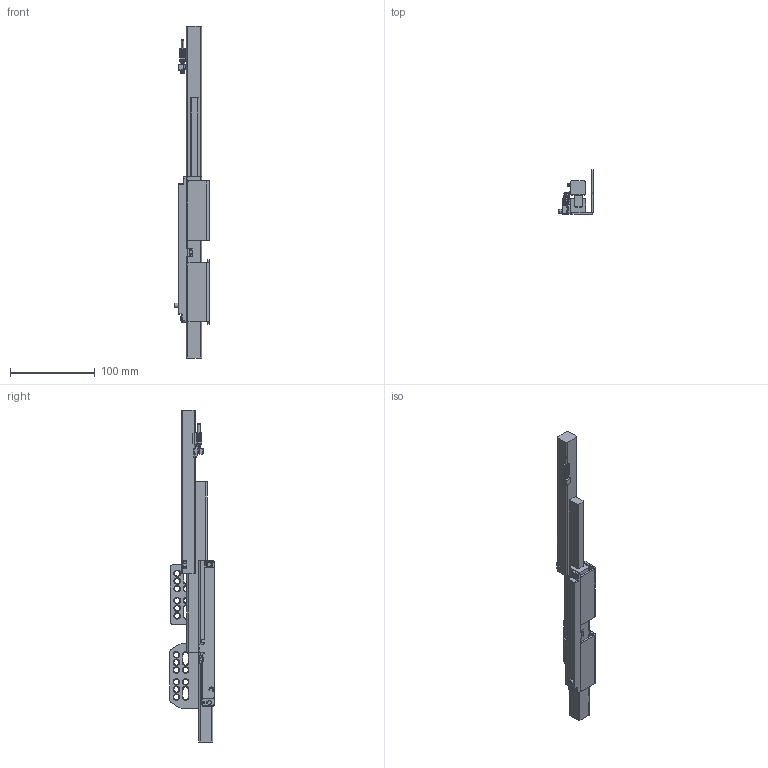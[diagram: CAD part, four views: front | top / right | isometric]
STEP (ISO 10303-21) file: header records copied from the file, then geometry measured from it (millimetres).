
FILE_DESCRIPTION (( 'STEP AP203' ), '1' );
FILE_NAME ('HB012504GX-L(打开).STEP', '2025-05-13T07:39:22', ( '微软用户' ), ( '微软中国' ), 'SwSTEP 2.0', 'SolidWorks 2021', '' );
FILE_SCHEMA (( 'CONFIG_CONTROL_DESIGN' ));
Length unit declared in the file: millimetre
Products named in the file (4): M覃誹儂凳R; HB412505H-1-R(湖羲); HB012504GX-L(湖羲); 瑰貌寢OFH01-GG-GB.STEP
Assembly tree (3 placements, depth 2):
  HB012504GX-L(湖羲)
    HB412505H-1-R(湖羲)
    瑰貌寢OFH01-GG-GB.STEP
    M覃誹儂凳R
Bounding box: 40.83 x 53 x 392 mm (x, y, z)
Volume: 188891.7 mm3; surface area: 60667 mm2
Topology: 3 solids, 3 shells, 1194 faces, 3212 edges, 2013 vertices
Faces by surface type: cylinder 489, plane 368, torus 158, bspline 127, cone 44, sphere 8
Entity records: 68425 total; most frequent: CARTESIAN_POINT 39245, ORIENTED_EDGE 6368, DIRECTION 5833, EDGE_CURVE 3184, AXIS2_PLACEMENT_3D 2200, VERTEX_POINT 2011, LINE 1433, VECTOR 1433
